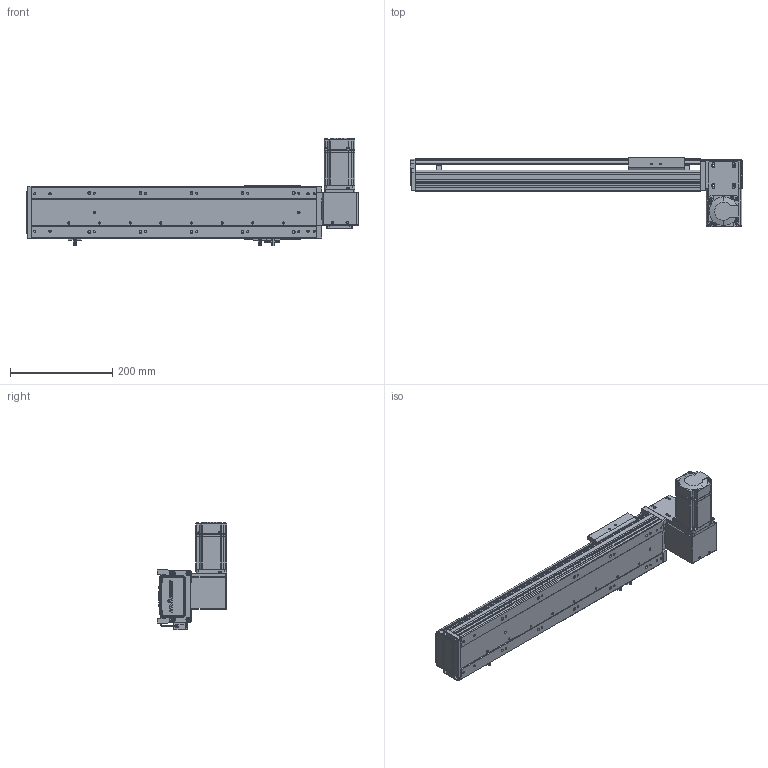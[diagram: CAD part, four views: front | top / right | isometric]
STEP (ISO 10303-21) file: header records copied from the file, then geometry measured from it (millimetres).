
FILE_DESCRIPTION (( 'STEP AP203' ), '1' );
FILE_NAME ('RY100-T-300-DR.SLDASM_350.step', '2024-04-25T03:21:58', ( '盈信电脑' ), ( '东莞市道滘镇水果街19号' ), 'SwSTEP 2.0', 'SolidWorks 2016', '' );
FILE_SCHEMA (( 'CONFIG_CONTROL_DESIGN' ));
Length unit declared in the file: millimetre
Products named in the file (16): RY100-T粣創揤踡裔; 侂狟200W萇儂; RY100俋离覜茼え; 覜茼ん672; RY100綴裔啣; RY100-T-300-DR.SLDASM_350; 滅袉蝶18-10; RY100-T翋肮祭謫裔啣; RY100-T翋肮祭謫裔啣2; RY100-T肮祭謫臏賑輸; RY80-T肮祭謫狟殏俋欶; RY100-T肮祭謫翋盓傅釱; RY100-T左右折电机安装板; 1; RY100-T-300-RK倰第奻裔_350; RY100-T-300-RK倰第菁釱_350
Assembly tree (19 placements, depth 3):
  RY100-T-300-DR.SLDASM_350
    RY100-T-300-RK倰第菁釱_350
    RY100-T-300-RK倰第奻裔_350
    RY100-T肮祭謫臏賑輸
    RY100綴裔啣
    覜茼ん672  x3
    RY100俋离覜茼え
    RY100-T肮祭謫翋盓傅釱
    RY100-T左右折电机安装板
    侂狟200W萇儂
      1
    RY100-T粣創揤踡裔
    滅袉蝶18-10  x2
    RY100-T翋肮祭謫裔啣2  x2
    RY100-T翋肮祭謫裔啣
    RY80-T肮祭謫狟殏俋欶
Bounding box: 650 x 135.5 x 209.7 mm (x, y, z)
Volume: 1604676.4 mm3; surface area: 631795.1 mm2
Topology: 18 solids, 18 shells, 2153 faces, 5955 edges, 3865 vertices
Faces by surface type: plane 1205, cylinder 743, cone 127, bspline 78
Entity records: 68228 total; most frequent: CARTESIAN_POINT 16250, ORIENTED_EDGE 10646, DIRECTION 10147, EDGE_CURVE 5323, VECTOR 3513, LINE 3513, VERTEX_POINT 3501, AXIS2_PLACEMENT_3D 3317
